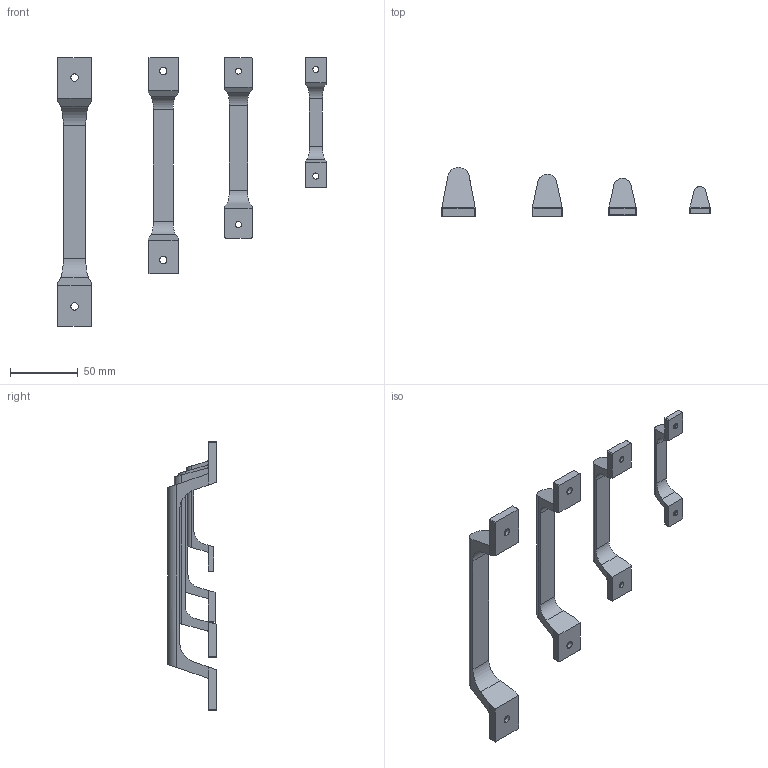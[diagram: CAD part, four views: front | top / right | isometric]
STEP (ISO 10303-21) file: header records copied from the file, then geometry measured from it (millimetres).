
FILE_DESCRIPTION (( 'STEP AP203' ), '1' );
FILE_NAME ('KA-1070-.STEP', '2021-01-26T03:09:36', ( '' ), ( '' ), 'SwSTEP 2.0', 'SolidWorks 2011', '' );
FILE_SCHEMA (( 'CONFIG_CONTROL_DESIGN' ));
Length unit declared in the file: millimetre
Products named in the file (5): KA-1070-3; KA-1070-4; KA-1070-; KA-1070-2; KA-1070-1
Assembly tree (4 placements, depth 2):
  KA-1070-
    KA-1070-1
    KA-1070-3
    KA-1070-2
    KA-1070-4
Bounding box: 197.46 x 35.98 x 198 mm (x, y, z)
Surface area: 32381.2 mm2 (no closed solid volume)
Topology: 0 solids, 4 shells, 140 faces, 368 edges, 234 vertices
Faces by surface type: plane 68, cylinder 54, cone 16, bspline 2
Entity records: 4857 total; most frequent: CARTESIAN_POINT 925, ORIENTED_EDGE 736, DIRECTION 698, EDGE_CURVE 368, LINE 236, VECTOR 236, VERTEX_POINT 234, AXIS2_PLACEMENT_3D 231
